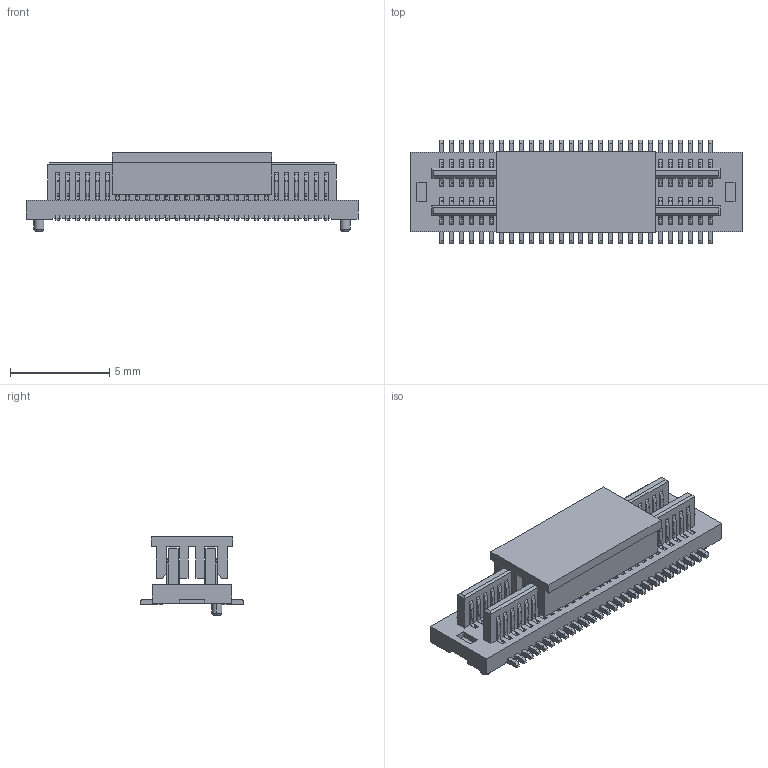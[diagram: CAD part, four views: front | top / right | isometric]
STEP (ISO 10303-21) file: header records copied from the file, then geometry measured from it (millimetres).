
FILE_DESCRIPTION(('CATIA V5 STEP Exchange'),'2;1');
FILE_NAME('F:\黄富鸿\板对板\PBB05\公座\H1.0\编带+盖\HC-PBB05-2-56-M-H1.0-G1-R-P-04（BTB0.5 双槽 公座 立贴 带柱 编带+盖）-HCTL.stp','2025-12-09T01:39:43+00:00',('none'),('none'),'CATIA Version 5 Release 20 GA (IN-10)','CATIA V5 STEP AP203','none');
FILE_SCHEMA(('CONFIG_CONTROL_DESIGN'));
Products named in the file (1): Part2
Bounding box: 16.7 x 5.2 x 3.95 mm (x, y, z)
Volume: 128.1 mm3; surface area: 1006.4 mm2
Topology: 58 solids, 58 shells, 3216 faces, 9830 edges, 6512 vertices
Faces by surface type: plane 2088, cylinder 1124, torus 4
Entity records: 93987 total; most frequent: ORIENTED_EDGE 19660, CARTESIAN_POINT 17436, DIRECTION 10448, EDGE_CURVE 9830, VECTOR 7350, LINE 7350, VERTEX_POINT 6512, EDGE_LOOP 3222
